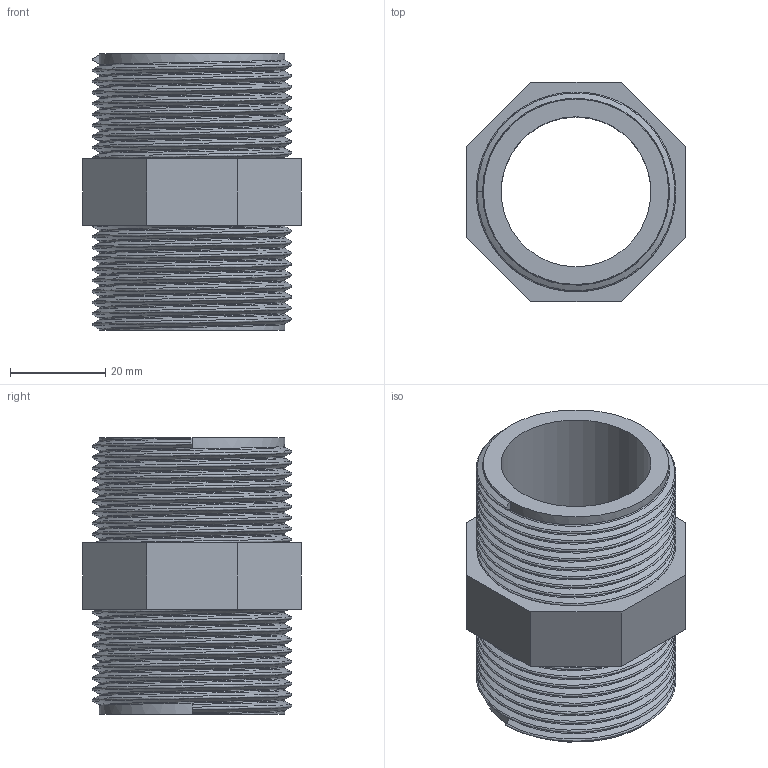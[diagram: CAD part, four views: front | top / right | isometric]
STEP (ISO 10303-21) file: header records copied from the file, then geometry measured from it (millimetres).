
FILE_DESCRIPTION(/* description */ ('PVC-U nipplo filettato BSP'),/* implementation_level */ '2;1');
FILE_NAME(/* name */ 'C:\Users\POLYPIPE\Desktop\DATASET INVENTOR\LIBRERIA EFFAST\RACCORDI 3DxWEB\RER\3D_RERNIE\3D_RERNIE040E.stp',/* time_stamp */ '2018-01-19T16:43:07+01:00',/* author */ ('POLYPIPE'),/* organization */ ('Polypipe Italia s.r.l.'),/* preprocessor_version */ 'ST-DEVELOPER v16.1',/* originating_system */ 'Autodesk Inventor 2016',/* authorisation */ '');
FILE_SCHEMA (('CONFIG_CONTROL_DESIGN'));
Length unit declared in the file: millimetre
Products named in the file (1): 3D_RERNIE
Bounding box: 46 x 46 x 58 mm (x, y, z)
Volume: 35666.5 mm3; surface area: 18976.9 mm2
Topology: 1 solids, 1 shells, 27 faces, 63 edges, 40 vertices
Faces by surface type: plane 14, bspline 10, cylinder 3
Full cylindrical faces by diameter (mm): 31.5 x1, 38.952 x2
Entity records: 7880 total; most frequent: CARTESIAN_POINT 7302, ORIENTED_EDGE 124, DIRECTION 86, EDGE_CURVE 62, VERTEX_POINT 40, EDGE_LOOP 32, LINE 30, VECTOR 30
